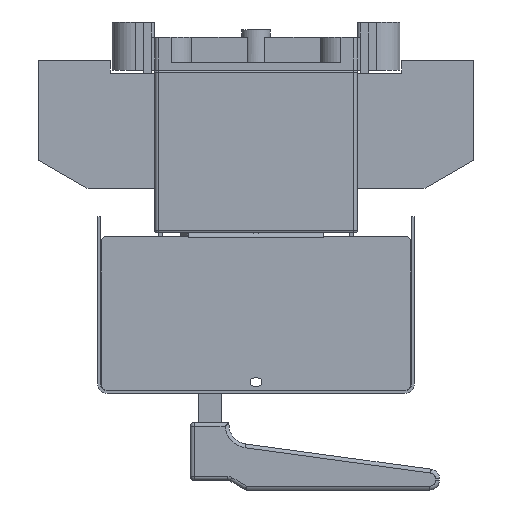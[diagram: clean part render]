
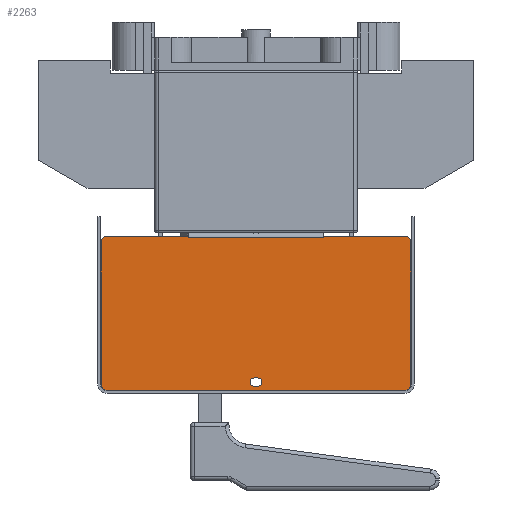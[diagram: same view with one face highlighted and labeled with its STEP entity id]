
A CAD part, left-side view. The second image highlights one B-rep face of the part: STEP entity #2263.
In plain terms, the highlighted planar face has unit normal (-1, 0, 0).
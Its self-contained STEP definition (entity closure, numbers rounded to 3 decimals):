
#2263=ADVANCED_FACE('',(#9182,#9183),#3332,.T.);
#3332=PLANE('',#25297);
#5084=LINE('',#36810,#7719);
#5094=LINE('',#36835,#7729);
#5096=LINE('',#36839,#7731);
#5098=LINE('',#36843,#7733);
#5101=LINE('',#36849,#7736);
#5111=LINE('',#36884,#7746);
#5112=LINE('',#36888,#7747);
#5113=LINE('',#36889,#7748);
#5114=LINE('',#36893,#7749);
#5115=LINE('',#36897,#7750);
#5116=LINE('',#36901,#7751);
#5117=LINE('',#36905,#7752);
#7719=VECTOR('',#29697,1.);
#7729=VECTOR('',#29723,1.);
#7731=VECTOR('',#29727,1.);
#7733=VECTOR('',#29731,1.);
#7736=VECTOR('',#29736,1.);
#7746=VECTOR('',#29764,1.);
#7747=VECTOR('',#29767,1.);
#7748=VECTOR('',#29768,1.);
#7749=VECTOR('',#29771,1.);
#7750=VECTOR('',#29774,1.);
#7751=VECTOR('',#29777,1.);
#7752=VECTOR('',#29780,1.);
#9182=FACE_BOUND('',#10044,.T.);
#9183=FACE_BOUND('',#10045,.T.);
#10044=EDGE_LOOP('',(#14234,#14235,#14236,#14237));
#10045=EDGE_LOOP('',(#14238,#14239,#14240,#14241,#14242,#14243,#14244,#14245,
#14246,#14247,#14248,#14249,#14250,#14251));
#14234=ORIENTED_EDGE('',*,*,#21735,.T.);
#14235=ORIENTED_EDGE('',*,*,#21736,.T.);
#14236=ORIENTED_EDGE('',*,*,#21737,.T.);
#14237=ORIENTED_EDGE('',*,*,#21738,.T.);
#14238=ORIENTED_EDGE('',*,*,#21714,.F.);
#14239=ORIENTED_EDGE('',*,*,#21712,.T.);
#14240=ORIENTED_EDGE('',*,*,#21699,.T.);
#14241=ORIENTED_EDGE('',*,*,#21716,.T.);
#14242=ORIENTED_EDGE('',*,*,#21719,.F.);
#14243=ORIENTED_EDGE('',*,*,#21739,.T.);
#14244=ORIENTED_EDGE('',*,*,#21740,.T.);
#14245=ORIENTED_EDGE('',*,*,#21741,.T.);
#14246=ORIENTED_EDGE('',*,*,#21742,.T.);
#14247=ORIENTED_EDGE('',*,*,#21743,.T.);
#14248=ORIENTED_EDGE('',*,*,#21744,.T.);
#14249=ORIENTED_EDGE('',*,*,#21745,.T.);
#14250=ORIENTED_EDGE('',*,*,#21746,.T.);
#14251=ORIENTED_EDGE('',*,*,#21747,.T.);
#18857=VERTEX_POINT('',#36809);
#18858=VERTEX_POINT('',#36811);
#18863=VERTEX_POINT('',#36832);
#18866=VERTEX_POINT('',#36840);
#18867=VERTEX_POINT('',#36844);
#18869=VERTEX_POINT('',#36850);
#18883=VERTEX_POINT('',#36882);
#18884=VERTEX_POINT('',#36883);
#18885=VERTEX_POINT('',#36885);
#18886=VERTEX_POINT('',#36887);
#18887=VERTEX_POINT('',#36890);
#18888=VERTEX_POINT('',#36892);
#18889=VERTEX_POINT('',#36894);
#18890=VERTEX_POINT('',#36896);
#18891=VERTEX_POINT('',#36898);
#18892=VERTEX_POINT('',#36900);
#18893=VERTEX_POINT('',#36902);
#18894=VERTEX_POINT('',#36904);
#21699=EDGE_CURVE('',#18858,#18857,#5084,.T.);
#21712=EDGE_CURVE('',#18863,#18858,#5094,.T.);
#21714=EDGE_CURVE('',#18863,#18866,#5096,.T.);
#21716=EDGE_CURVE('',#18857,#18867,#5098,.T.);
#21719=EDGE_CURVE('',#18869,#18867,#5101,.T.);
#21735=EDGE_CURVE('',#18883,#18884,#23822,.T.);
#21736=EDGE_CURVE('',#18884,#18885,#5111,.T.);
#21737=EDGE_CURVE('',#18885,#18886,#23823,.T.);
#21738=EDGE_CURVE('',#18886,#18883,#5112,.T.);
#21739=EDGE_CURVE('',#18869,#18887,#5113,.T.);
#21740=EDGE_CURVE('',#18887,#18888,#23824,.T.);
#21741=EDGE_CURVE('',#18888,#18889,#5114,.T.);
#21742=EDGE_CURVE('',#18889,#18890,#23825,.T.);
#21743=EDGE_CURVE('',#18890,#18891,#5115,.T.);
#21744=EDGE_CURVE('',#18891,#18892,#23826,.T.);
#21745=EDGE_CURVE('',#18892,#18893,#5116,.T.);
#21746=EDGE_CURVE('',#18893,#18894,#23827,.T.);
#21747=EDGE_CURVE('',#18894,#18866,#5117,.T.);
#23822=CIRCLE('',#25291,2.1);
#23823=CIRCLE('',#25292,2.1);
#23824=CIRCLE('',#25293,3.);
#23825=CIRCLE('',#25294,3.);
#23826=CIRCLE('',#25295,3.);
#23827=CIRCLE('',#25296,3.);
#25291=AXIS2_PLACEMENT_3D('',#36881,#29762,#29763);
#25292=AXIS2_PLACEMENT_3D('',#36886,#29765,#29766);
#25293=AXIS2_PLACEMENT_3D('',#36891,#29769,#29770);
#25294=AXIS2_PLACEMENT_3D('',#36895,#29772,#29773);
#25295=AXIS2_PLACEMENT_3D('',#36899,#29775,#29776);
#25296=AXIS2_PLACEMENT_3D('',#36903,#29778,#29779);
#25297=AXIS2_PLACEMENT_3D('',#36906,#29781,#29782);
#29697=DIRECTION('',(0.,1.,0.));
#29723=DIRECTION('',(0.,1.,0.));
#29727=DIRECTION('',(0.,0.,1.));
#29731=DIRECTION('',(0.,1.,0.));
#29736=DIRECTION('',(0.,0.,-1.));
#29762=DIRECTION('',(1.,0.,0.));
#29763=DIRECTION('',(0.,1.,0.));
#29764=DIRECTION('',(0.,-1.,0.));
#29765=DIRECTION('',(1.,0.,0.));
#29766=DIRECTION('',(0.,1.,0.));
#29767=DIRECTION('',(0.,1.,0.));
#29768=DIRECTION('',(0.,1.,0.));
#29769=DIRECTION('',(-1.,0.,0.));
#29770=DIRECTION('',(0.,1.,0.));
#29771=DIRECTION('',(0.,0.,-1.));
#29772=DIRECTION('',(-1.,0.,0.));
#29773=DIRECTION('',(0.,1.,0.));
#29774=DIRECTION('',(0.,-1.,0.));
#29775=DIRECTION('',(-1.,0.,0.));
#29776=DIRECTION('',(0.,1.,0.));
#29777=DIRECTION('',(0.,0.,1.));
#29778=DIRECTION('',(-1.,0.,0.));
#29779=DIRECTION('',(0.,1.,0.));
#29780=DIRECTION('',(0.,1.,0.));
#29781=DIRECTION('',(-1.,0.,0.));
#29782=DIRECTION('',(0.,-1.,0.));
#36809=CARTESIAN_POINT('',(-189.3,35.,-86.8));
#36810=CARTESIAN_POINT('',(-189.3,50.5,-86.8));
#36811=CARTESIAN_POINT('',(-189.3,-35.,-86.8));
#36832=CARTESIAN_POINT('',(-189.3,-35.002,-86.8));
#36835=CARTESIAN_POINT('',(-189.3,77.,-86.8));
#36839=CARTESIAN_POINT('',(-189.3,-35.002,-162.8));
#36840=CARTESIAN_POINT('',(-189.3,-35.002,-85.8));
#36843=CARTESIAN_POINT('',(-189.3,77.,-86.8));
#36844=CARTESIAN_POINT('',(-189.3,35.002,-86.8));
#36849=CARTESIAN_POINT('',(-189.3,35.002,-162.8));
#36850=CARTESIAN_POINT('',(-189.3,35.002,-85.8));
#36881=CARTESIAN_POINT('',(-189.3,1.,-161.4));
#36882=CARTESIAN_POINT('',(-189.3,1.,-163.5));
#36883=CARTESIAN_POINT('',(-189.3,1.,-159.3));
#36884=CARTESIAN_POINT('',(-189.3,1.,-159.3));
#36885=CARTESIAN_POINT('',(-189.3,-1.,-159.3));
#36886=CARTESIAN_POINT('',(-189.3,-1.,-161.4));
#36887=CARTESIAN_POINT('',(-189.3,-1.,-163.5));
#36888=CARTESIAN_POINT('',(-189.3,-1.,-163.5));
#36889=CARTESIAN_POINT('',(-189.3,-77.,-85.8));
#36890=CARTESIAN_POINT('',(-189.3,77.,-85.8));
#36891=CARTESIAN_POINT('',(-189.3,77.,-88.8));
#36892=CARTESIAN_POINT('',(-189.3,80.,-88.8));
#36893=CARTESIAN_POINT('',(-189.3,80.,-88.8));
#36894=CARTESIAN_POINT('',(-189.3,80.,-162.8));
#36895=CARTESIAN_POINT('',(-189.3,77.,-162.8));
#36896=CARTESIAN_POINT('',(-189.3,77.,-165.8));
#36897=CARTESIAN_POINT('',(-189.3,77.,-165.8));
#36898=CARTESIAN_POINT('',(-189.3,-77.,-165.8));
#36899=CARTESIAN_POINT('',(-189.3,-77.,-162.8));
#36900=CARTESIAN_POINT('',(-189.3,-80.,-162.8));
#36901=CARTESIAN_POINT('',(-189.3,-80.,-162.8));
#36902=CARTESIAN_POINT('',(-189.3,-80.,-88.8));
#36903=CARTESIAN_POINT('',(-189.3,-77.,-88.8));
#36904=CARTESIAN_POINT('',(-189.3,-77.,-85.8));
#36905=CARTESIAN_POINT('',(-189.3,-77.,-85.8));
#36906=CARTESIAN_POINT('',(-189.3,77.,-162.8));
